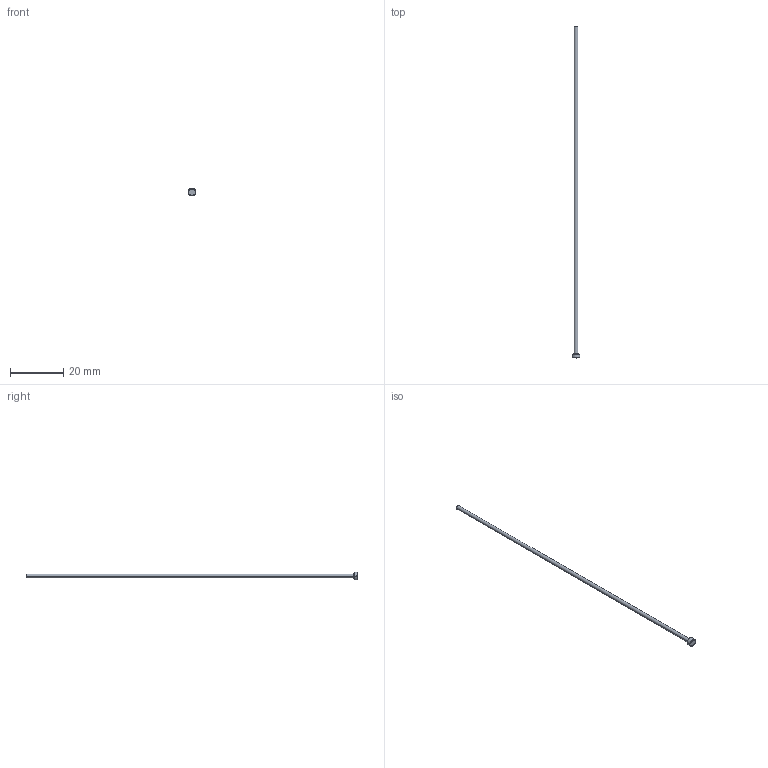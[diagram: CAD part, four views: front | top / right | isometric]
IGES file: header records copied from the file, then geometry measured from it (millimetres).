
Start section: SolidWorks IGES file using analytic representation for surfaces
Global section: file name: C:\Users\User\Downloads\Matripeça 31-08 tar\PB - PINO EXTRATOR TIPO _B_ (CATÁLOGO)\PB01,5\PB01,5125.IGS; native system: SolidWorks 2024; preprocessor: SolidWorks 2024; author: User; date: 260901.135751; units: millimetre
Bounding box: 3 x 125 x 3 mm (x, y, z)
Surface area: 612.2 mm2 (no closed solid volume)
Topology: 0 solids, 0 shells, 398 faces, 2627 edges, 2627 vertices
Faces by surface type: bspline 384, revolution 14
